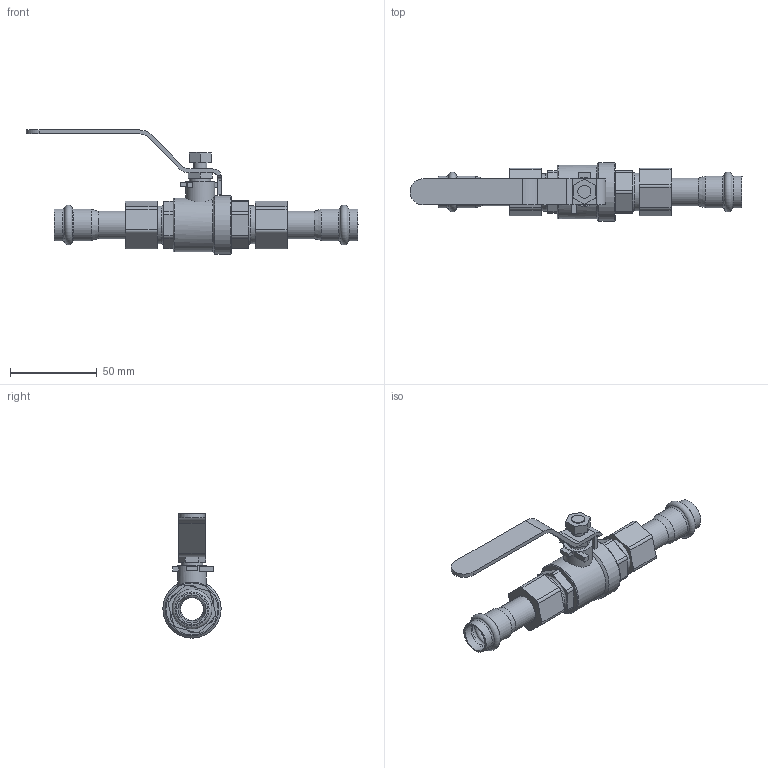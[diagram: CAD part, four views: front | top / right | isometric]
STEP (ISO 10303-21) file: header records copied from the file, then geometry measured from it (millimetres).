
FILE_DESCRIPTION(/* description */ (''),/* implementation_level */ '2;1');
FILE_NAME(/* name */ '51352000001.stp',/* time_stamp */ '2022-06-28T15:03:00+08:00',/* author */ (''),/* organization */ (''),/* preprocessor_version */ 'ST-DEVELOPER v11',/* originating_system */ 'SIEMENS PLM Software NX 7.5',/* authorisation */ '');
FILE_SCHEMA (('CONFIG_CONTROL_DESIGN'));
Length unit declared in the file: millimetre
Products named in the file (1): AdmiB4625zps
Bounding box: 191.35 x 33.6 x 71.6 mm (x, y, z)
Volume: 56709.1 mm3; surface area: 34963 mm2
Topology: 5 solids, 5 shells, 212 faces, 496 edges, 312 vertices
Faces by surface type: plane 105, cylinder 64, torus 34, cone 9
Full cylindrical faces by diameter (mm): 7.6 x2, 12.4 x1, 13 x2, 14 x2, 15 x1, 15.45 x2, 16 x2, 16.1 x2, 16.2 x4, 16.65 x2, 16.7 x1, 18.2 x4, 18.5 x2, 18.6 x2, 31 x1, 33.6 x1
Entity records: 5716 total; most frequent: DIRECTION 1006, CARTESIAN_POINT 978, ORIENTED_EDGE 826, EDGE_CURVE 413, AXIS2_PLACEMENT_3D 386, EDGE_LOOP 317, VERTEX_POINT 304, LINE 234
